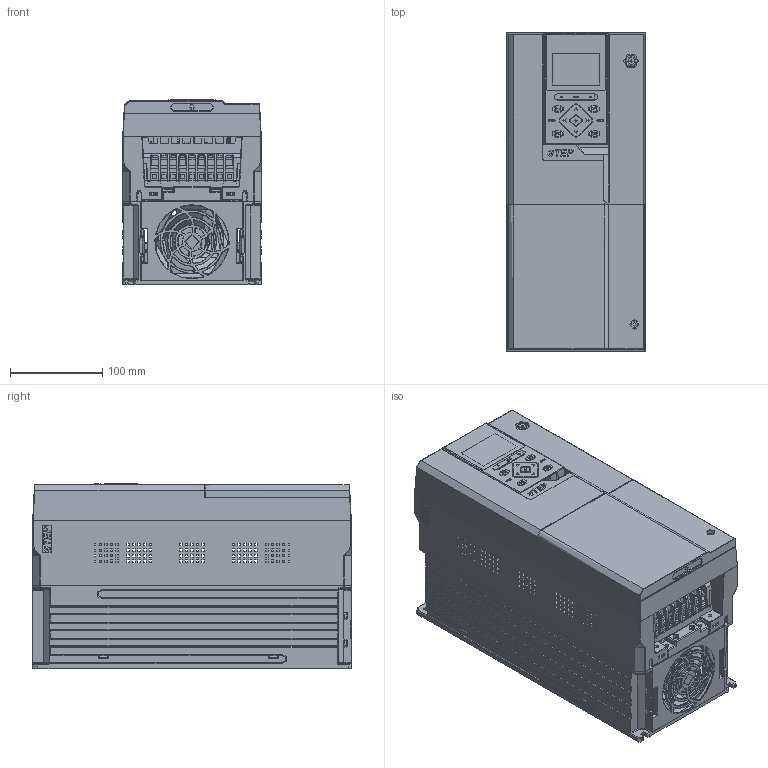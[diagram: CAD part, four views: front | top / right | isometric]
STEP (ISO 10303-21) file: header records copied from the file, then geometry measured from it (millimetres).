
FILE_DESCRIPTION(('STEP AP203'), '1');
FILE_NAME('F2', '', ('UNSPECIFIED'), ('UNSPECIFIED'), 'C3D Converter', 'C3D Toolkit', '');
FILE_SCHEMA(('CONFIG_CONTROL_DESIGN'));
Length unit declared in the file: millimetre
Products named in the file (1): INPRIME-G15-4BF
Bounding box: 150.01 x 345.01 x 200.4 mm (x, y, z)
Topology: 7 solids, 554 shells, 4406 faces, 18560 edges, 14398 vertices
Faces by surface type: plane 2712, cylinder 823, bspline 514, cone 172, torus 169, sphere 16
Full cylindrical faces by diameter (mm): 1.4 x1, 3 x4, 3.3 x2, 3.5 x3, 3.98 x2, 4.5 x1, 4.975 x2, 5 x2, 5.97 x4, 7 x3, 8 x4, 39 x1, 40 x3
Entity records: 263283 total; most frequent: CARTESIAN_POINT 83655, DIRECTION 25504, ORIENTED_EDGE 25336, EDGE_CURVE 18445, VERTEX_POINT 14443, LINE 12500, VECTOR 12500, AXIS2_PLACEMENT_3D 6502
